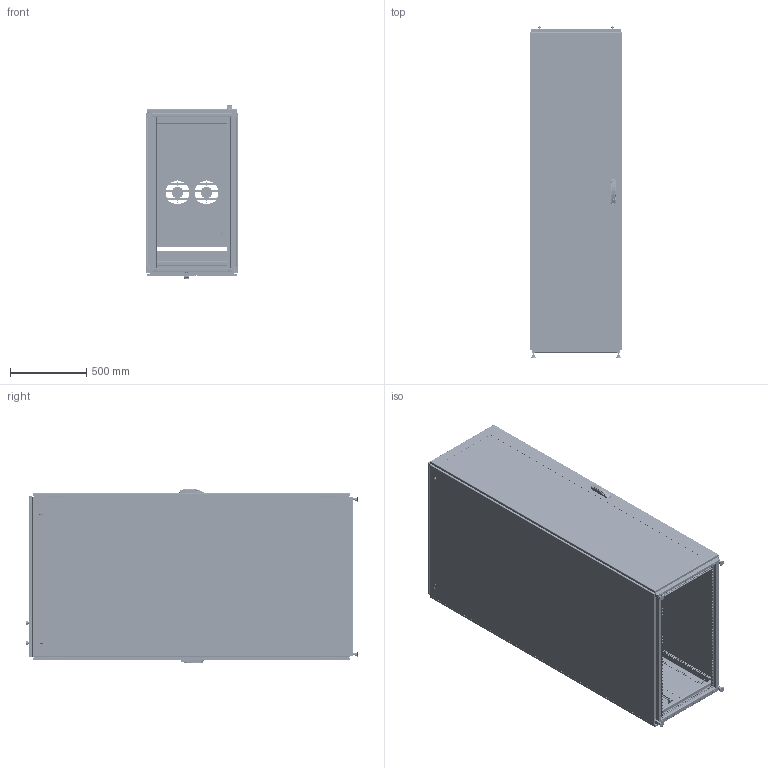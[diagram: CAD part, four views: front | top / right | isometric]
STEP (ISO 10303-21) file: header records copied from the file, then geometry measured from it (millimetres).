
FILE_DESCRIPTION (( 'STEP AP203' ), '1' );
FILE_NAME ('ps1sw21611b.STEP', '2021-04-06T14:50:02', ( '' ), ( '' ), 'SwSTEP 2.0', 'SolidWorks 2016', '' );
FILE_SCHEMA (( 'CONFIG_CONTROL_DESIGN' ));
Length unit declared in the file: millimetre
Products named in the file (79): 89168535; 27131001; 99411910; 87931368_SLEEVE; 89165658; 60127135_installed position SS; 89092909_87788538; 87755569; 89091664_875472289; 60127013; 60127208; 64127324; 91120001_91120001; 89165655; 11258029_11258029; 89184282; 89165526_89165526; 89093716_87785037; 87920638_87920638; 87932266; 89090300; 87780579; 87927840_87927840; 89090299_87790201; 87938982_87938982; 87541995; 99401452; 11358776_11358776; 89167116_89167116; 89184279; 89165660_87788601; 89093694_87788602; 89167114_89167114; 99401225_Config-Drawing; 89165544_87794135; 11458172_11458172; 89093712; 64201001; 89165656; 60127207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
Assembly tree (171 placements, depth 5):
  ps1sw21611b
    89165544_87794135
      60127013  x8
      89092827  x4
      30127077  x4
      87780579  x4
    89090302  x6
      89090300
        89090299_87790201
        60127135_installed position SS  x2
    89184279
      89184282
        89184285
        60127101_After Weld  x2
        60100041_60100041  x2
          87931527_87931527
          87931368_SLEEVE
        87920638_87920638  x6
      89165870
      89184288
      89168254_1 INCH SQUARE  x3
      89091664_875472289  x4
      89101845  x4
      89165751_89165751  x2
      87753837_87753837  x2
    89165658
      89165659
        89165660_87788601
        60127101_60127101  x2
        60100041_60100041  x2
          87931527_87931527
          87931368_SLEEVE
        89093694_87788602
      89168254_1 INCH SQUARE  x2
    89165655
      89165656
        89165657_87788599
        60127101_60127101  x2
        60100041_60100041  x2
          87931527_87931527
          87931368_SLEEVE
        89093694_87788602
        99411910  x2
        87931362_87931362  x2
      60127372_60127372
        11158139_11158139
        11258030_11258030
        11458172_11458172
        60127208
        60127207
        11458171_11458171
        11358776_11358776
        11158180_11158180
        11258029_11258029
        11158141_11158141
        11158140_11158140
      89092909_87788538  x2
      27131001  x2
      91120001_91120001  x2
      87938982_87938982
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Bounding box: 610.31 x 2181.62 x 1147.82 mm (x, y, z)
Volume: 21486823 mm3; surface area: 23699878.2 mm2
Topology: 215 solids, 256 shells, 30146 faces, 81541 edges, 52376 vertices
Faces by surface type: plane 15608, cylinder 11411, bspline 1363, torus 1080, cone 537, sphere 147
Entity records: 474568 total; most frequent: CARTESIAN_POINT 134183, ORIENTED_EDGE 68782, DIRECTION 66640, EDGE_CURVE 34411, AXIS2_PLACEMENT_3D 23139, VERTEX_POINT 22179, LINE 20362, VECTOR 20362
